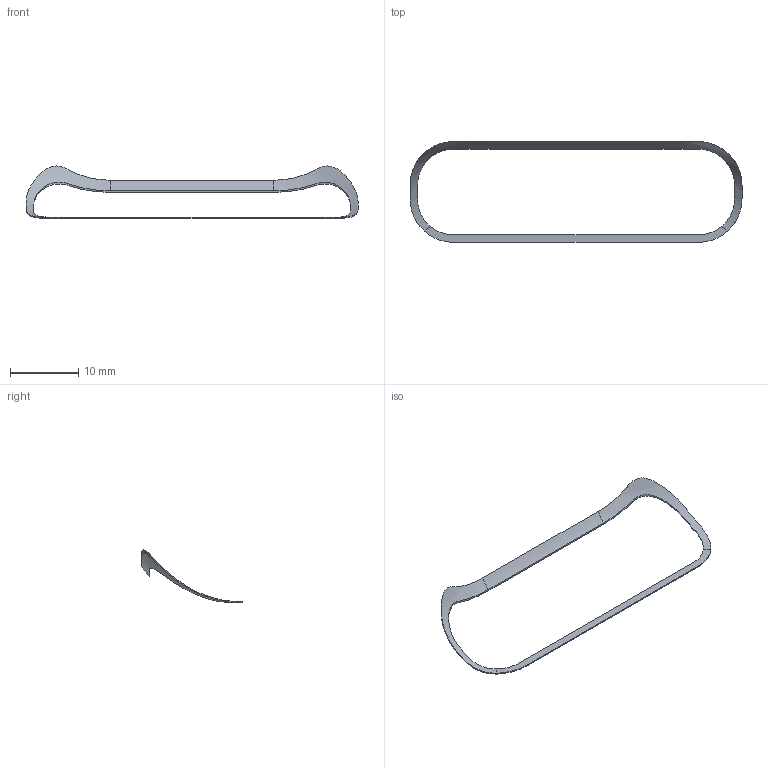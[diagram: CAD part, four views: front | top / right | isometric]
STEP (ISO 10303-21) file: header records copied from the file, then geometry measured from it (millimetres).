
FILE_DESCRIPTION(('Open CASCADE Model'),'2;1');
FILE_NAME('Open CASCADE Shape Model','2026-09-08T13:32:06',('Author'),( 'Open CASCADE'),'Open CASCADE STEP processor 7.7','Open CASCADE 7.7' ,'Unknown');
FILE_SCHEMA(('AUTOMOTIVE_DESIGN { 1 0 10303 214 1 1 1 1 }'));
Length unit declared in the file: millimetre
Products named in the file (1): Open CASCADE STEP translator 7.7 11
Bounding box: 48.8 x 14.8 x 7.67 mm (x, y, z)
Volume: 25.9 mm3; surface area: 393.3 mm2
Topology: 1 solids, 1 shells, 24 faces, 72 edges, 48 vertices
Faces by surface type: cylinder 10, plane 10, torus 4
Entity records: 3964 total; most frequent: CARTESIAN_POINT 2707, DIRECTION 174, ORIENTED_EDGE 144, PCURVE 144, DEFINITIONAL_REPRESENTATION 144, B_SPLINE_CURVE_WITH_KNOTS 108, LINE 80, VECTOR 80
